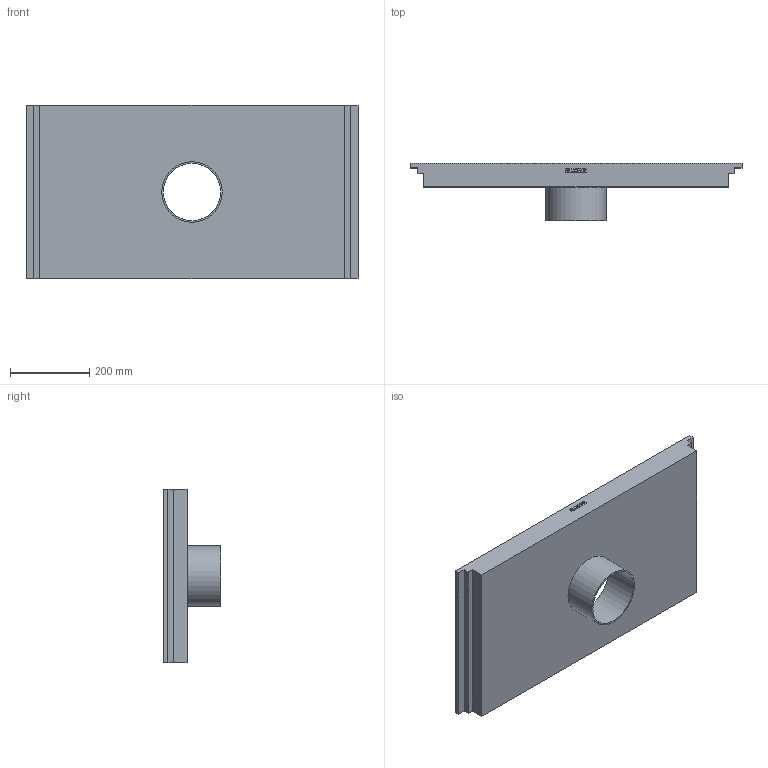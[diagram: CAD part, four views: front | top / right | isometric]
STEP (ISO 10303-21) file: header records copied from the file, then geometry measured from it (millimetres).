
FILE_DESCRIPTION((''),'2;1');
FILE_NAME('I:\WATTS\3D_CAD\3D_CAD_Models\Blucher_Drains\BKC_KitchenChannels\BKC-200\WebsiteFiles\3D\STEP\BKC-206-2.stp','2009-11-30T08:51:21',('menesek'),(''),'Autodesk Inventor 2010','Autodesk Inventor 2010','');
FILE_SCHEMA(('AUTOMOTIVE_DESIGN { 1 0 10303 214 1 1 1 1 }'));
Length unit declared in the file: inch
Products named in the file (1): BKC-206-2
Bounding box: 837 x 145 x 437 mm (x, y, z)
Volume: 3618010.4 mm3; surface area: 1057724.8 mm2
Topology: 1 solids, 1 shells, 142 faces, 385 edges, 257 vertices
Faces by surface type: plane 95, bspline 45, cylinder 2
Full cylindrical faces by diameter (mm): 144.4 x1, 152.4 x1
Entity records: 4799 total; most frequent: CARTESIAN_POINT 1501, ORIENTED_EDGE 764, DIRECTION 492, EDGE_CURVE 382, VECTOR 288, LINE 288, VERTEX_POINT 256, EDGE_LOOP 158
